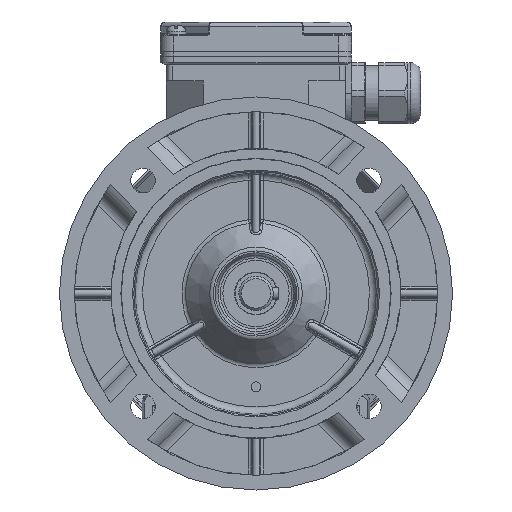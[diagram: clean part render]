
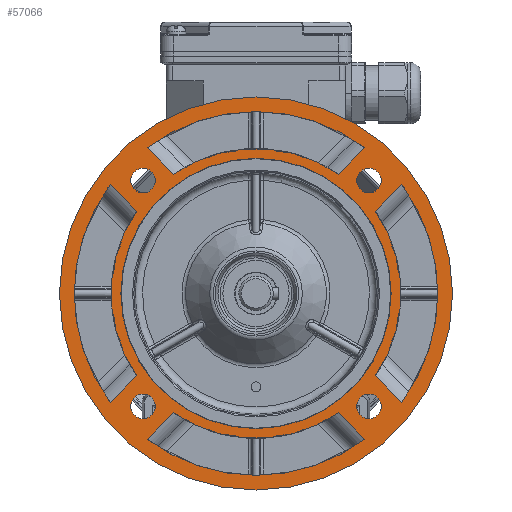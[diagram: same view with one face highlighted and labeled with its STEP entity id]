
A CAD part, front view. The second image highlights one B-rep face of the part: STEP entity #57066.
In plain terms, the highlighted planar face has unit normal (0, -1, 0).
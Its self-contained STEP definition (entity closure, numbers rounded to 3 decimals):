
#2186=LINE('',#87283,#4747);
#2187=LINE('',#87297,#4748);
#2188=LINE('',#87306,#4749);
#2189=LINE('',#87325,#4750);
#2190=LINE('',#87337,#4751);
#2191=LINE('',#87351,#4752);
#2192=LINE('',#87377,#4753);
#2193=LINE('',#87386,#4754);
#4747=VECTOR('',#69021,1000.);
#4748=VECTOR('',#69028,1000.);
#4749=VECTOR('',#69035,1000.);
#4750=VECTOR('',#69042,1000.);
#4751=VECTOR('',#69053,1000.);
#4752=VECTOR('',#69060,1000.);
#4753=VECTOR('',#69071,1000.);
#4754=VECTOR('',#69078,1000.);
#16398=ORIENTED_EDGE('',*,*,#24552,.F.);
#16399=ORIENTED_EDGE('',*,*,#24553,.F.);
#16400=ORIENTED_EDGE('',*,*,#24554,.F.);
#16401=ORIENTED_EDGE('',*,*,#24555,.F.);
#16402=ORIENTED_EDGE('',*,*,#24444,.F.);
#16403=ORIENTED_EDGE('',*,*,#24442,.F.);
#16404=ORIENTED_EDGE('',*,*,#24441,.T.);
#16405=ORIENTED_EDGE('',*,*,#24438,.T.);
#16406=ORIENTED_EDGE('',*,*,#24436,.F.);
#16407=ORIENTED_EDGE('',*,*,#24434,.T.);
#16408=ORIENTED_EDGE('',*,*,#24432,.T.);
#16409=ORIENTED_EDGE('',*,*,#24430,.F.);
#16410=ORIENTED_EDGE('',*,*,#24428,.F.);
#16411=ORIENTED_EDGE('',*,*,#24427,.F.);
#16412=ORIENTED_EDGE('',*,*,#24426,.T.);
#16413=ORIENTED_EDGE('',*,*,#24423,.T.);
#16414=ORIENTED_EDGE('',*,*,#24421,.F.);
#16415=ORIENTED_EDGE('',*,*,#24419,.F.);
#16416=ORIENTED_EDGE('',*,*,#24418,.T.);
#16417=ORIENTED_EDGE('',*,*,#24415,.T.);
#16418=ORIENTED_EDGE('',*,*,#24414,.F.);
#16419=ORIENTED_EDGE('',*,*,#24551,.T.);
#24414=EDGE_CURVE('',#29131,#29130,#2186,.T.);
#24415=EDGE_CURVE('',#29132,#29130,#31704,.T.);
#24418=EDGE_CURVE('',#29133,#29132,#2187,.T.);
#24419=EDGE_CURVE('',#29133,#29131,#31705,.T.);
#24421=EDGE_CURVE('',#29134,#29135,#2188,.T.);
#24423=EDGE_CURVE('',#29136,#29135,#31706,.T.);
#24426=EDGE_CURVE('',#29137,#29136,#2189,.T.);
#24427=EDGE_CURVE('',#29137,#29134,#31707,.T.);
#24428=EDGE_CURVE('',#29138,#29138,#31708,.T.);
#24430=EDGE_CURVE('',#29139,#29140,#2190,.T.);
#24432=EDGE_CURVE('',#29141,#29140,#31709,.T.);
#24434=EDGE_CURVE('',#29142,#29141,#2191,.T.);
#24436=EDGE_CURVE('',#29142,#29139,#31710,.T.);
#24438=EDGE_CURVE('',#29144,#29143,#31711,.T.);
#24441=EDGE_CURVE('',#29145,#29144,#2192,.T.);
#24442=EDGE_CURVE('',#29145,#29146,#31712,.T.);
#24444=EDGE_CURVE('',#29146,#29143,#2193,.T.);
#24551=EDGE_CURVE('',#29225,#29225,#31737,.T.);
#24552=EDGE_CURVE('',#29226,#29226,#31738,.T.);
#24553=EDGE_CURVE('',#29227,#29227,#31739,.T.);
#24554=EDGE_CURVE('',#29228,#29228,#31740,.T.);
#24555=EDGE_CURVE('',#29229,#29229,#31741,.T.);
#29130=VERTEX_POINT('',#87277);
#29131=VERTEX_POINT('',#87282);
#29132=VERTEX_POINT('',#87286);
#29133=VERTEX_POINT('',#87296);
#29134=VERTEX_POINT('',#87305);
#29135=VERTEX_POINT('',#87307);
#29136=VERTEX_POINT('',#87314);
#29137=VERTEX_POINT('',#87324);
#29138=VERTEX_POINT('',#87330);
#29139=VERTEX_POINT('',#87336);
#29140=VERTEX_POINT('',#87338);
#29141=VERTEX_POINT('',#87345);
#29142=VERTEX_POINT('',#87352);
#29143=VERTEX_POINT('',#87364);
#29144=VERTEX_POINT('',#87366);
#29145=VERTEX_POINT('',#87376);
#29146=VERTEX_POINT('',#87380);
#29225=VERTEX_POINT('',#88097);
#29226=VERTEX_POINT('',#88100);
#29227=VERTEX_POINT('',#88102);
#29228=VERTEX_POINT('',#88104);
#29229=VERTEX_POINT('',#88106);
#31704=CIRCLE('',#60530,59.);
#31705=CIRCLE('',#60533,74.);
#31706=CIRCLE('',#60536,59.);
#31707=CIRCLE('',#60539,74.);
#31708=CIRCLE('',#60541,55.);
#31709=CIRCLE('',#60544,59.);
#31710=CIRCLE('',#60547,74.);
#31711=CIRCLE('',#60549,59.);
#31712=CIRCLE('',#60552,74.);
#31737=CIRCLE('',#60613,80.);
#31738=CIRCLE('',#60615,5.);
#31739=CIRCLE('',#60616,5.);
#31740=CIRCLE('',#60617,5.);
#31741=CIRCLE('',#60618,5.);
#34141=EDGE_LOOP('',(#16398));
#34142=EDGE_LOOP('',(#16399));
#34143=EDGE_LOOP('',(#16400));
#34144=EDGE_LOOP('',(#16401));
#34145=EDGE_LOOP('',(#16402,#16403,#16404,#16405));
#34146=EDGE_LOOP('',(#16406,#16407,#16408,#16409));
#34147=EDGE_LOOP('',(#16410));
#34148=EDGE_LOOP('',(#16411,#16412,#16413,#16414));
#34149=EDGE_LOOP('',(#16415,#16416,#16417,#16418));
#34150=EDGE_LOOP('',(#16419));
#36936=FACE_BOUND('',#34141,.T.);
#36937=FACE_BOUND('',#34142,.T.);
#36938=FACE_BOUND('',#34143,.T.);
#36939=FACE_BOUND('',#34144,.T.);
#36940=FACE_BOUND('',#34145,.T.);
#36941=FACE_BOUND('',#34146,.T.);
#36942=FACE_BOUND('',#34147,.T.);
#36943=FACE_BOUND('',#34148,.T.);
#36944=FACE_BOUND('',#34149,.T.);
#36945=FACE_BOUND('',#34150,.T.);
#38512=PLANE('',#60614);
#57066=ADVANCED_FACE('',(#36936,#36937,#36938,#36939,#36940,#36941,#36942,
#36943,#36944,#36945),#38512,.F.);
#60530=AXIS2_PLACEMENT_3D('',#87285,#69024,#69025);
#60533=AXIS2_PLACEMENT_3D('',#87299,#69031,#69032);
#60536=AXIS2_PLACEMENT_3D('',#87313,#69038,#69039);
#60539=AXIS2_PLACEMENT_3D('',#87327,#69045,#69046);
#60541=AXIS2_PLACEMENT_3D('',#87329,#69049,#69050);
#60544=AXIS2_PLACEMENT_3D('',#87344,#69056,#69057);
#60547=AXIS2_PLACEMENT_3D('',#87358,#69063,#69064);
#60549=AXIS2_PLACEMENT_3D('',#87365,#69067,#69068);
#60552=AXIS2_PLACEMENT_3D('',#87379,#69074,#69075);
#60613=AXIS2_PLACEMENT_3D('',#88096,#69213,#69214);
#60614=AXIS2_PLACEMENT_3D('',#88098,#69215,#69216);
#60615=AXIS2_PLACEMENT_3D('',#88099,#69217,#69218);
#60616=AXIS2_PLACEMENT_3D('',#88101,#69219,#69220);
#60617=AXIS2_PLACEMENT_3D('',#88103,#69221,#69222);
#60618=AXIS2_PLACEMENT_3D('',#88105,#69223,#69224);
#69021=DIRECTION('',(-0.707,0.,-0.707));
#69024=DIRECTION('',(0.,-1.,0.));
#69025=DIRECTION('',(0.,0.,-1.));
#69028=DIRECTION('',(-0.707,0.,0.707));
#69031=DIRECTION('',(0.,-1.,0.));
#69032=DIRECTION('',(0.,0.,-1.));
#69035=DIRECTION('',(-0.707,0.,0.707));
#69038=DIRECTION('',(0.,-1.,0.));
#69039=DIRECTION('',(0.,0.,-1.));
#69042=DIRECTION('',(0.707,0.,0.707));
#69045=DIRECTION('',(0.,-1.,0.));
#69046=DIRECTION('',(0.,0.,-1.));
#69049=DIRECTION('',(0.,-1.,0.));
#69050=DIRECTION('',(0.,0.,-1.));
#69053=DIRECTION('',(0.707,0.,0.707));
#69056=DIRECTION('',(0.,-1.,0.));
#69057=DIRECTION('',(0.,0.,-1.));
#69060=DIRECTION('',(0.707,0.,-0.707));
#69063=DIRECTION('',(0.,-1.,0.));
#69064=DIRECTION('',(0.,0.,-1.));
#69067=DIRECTION('',(0.,-1.,0.));
#69068=DIRECTION('',(0.,0.,-1.));
#69071=DIRECTION('',(-0.707,0.,-0.707));
#69074=DIRECTION('',(0.,-1.,0.));
#69075=DIRECTION('',(0.,0.,-1.));
#69078=DIRECTION('',(0.707,0.,-0.707));
#69213=DIRECTION('',(0.,-1.,0.));
#69214=DIRECTION('',(0.,0.,-1.));
#69215=DIRECTION('',(0.,1.,0.));
#69216=DIRECTION('',(0.,0.,1.));
#69217=DIRECTION('',(0.,-1.,0.));
#69218=DIRECTION('',(1.,0.,0.));
#69219=DIRECTION('',(0.,-1.,0.));
#69220=DIRECTION('',(1.,0.,0.));
#69221=DIRECTION('',(0.,-1.,0.));
#69222=DIRECTION('',(1.,0.,0.));
#69223=DIRECTION('',(0.,-1.,0.));
#69224=DIRECTION('',(1.,0.,0.));
#87277=CARTESIAN_POINT('',(48.549,-90.,33.526));
#87282=CARTESIAN_POINT('',(59.295,-90.,44.273));
#87283=CARTESIAN_POINT('',(59.837,-90.,44.815));
#87285=CARTESIAN_POINT('',(0.,-90.,0.));
#87286=CARTESIAN_POINT('',(48.549,-90.,-33.526));
#87296=CARTESIAN_POINT('',(59.295,-90.,-44.273));
#87297=CARTESIAN_POINT('',(59.837,-90.,-44.815));
#87299=CARTESIAN_POINT('',(0.,-90.,0.));
#87305=CARTESIAN_POINT('',(44.273,-90.,-59.295));
#87306=CARTESIAN_POINT('',(44.815,-90.,-59.837));
#87307=CARTESIAN_POINT('',(33.526,-90.,-48.549));
#87313=CARTESIAN_POINT('',(0.,-90.,0.));
#87314=CARTESIAN_POINT('',(-33.526,-90.,-48.549));
#87324=CARTESIAN_POINT('',(-44.273,-90.,-59.295));
#87325=CARTESIAN_POINT('',(-44.815,-90.,-59.837));
#87327=CARTESIAN_POINT('',(0.,-90.,0.));
#87329=CARTESIAN_POINT('',(0.,-90.,0.));
#87330=CARTESIAN_POINT('',(0.,-90.,-55.));
#87336=CARTESIAN_POINT('',(-59.295,-90.,-44.273));
#87337=CARTESIAN_POINT('',(-59.837,-90.,-44.815));
#87338=CARTESIAN_POINT('',(-48.549,-90.,-33.526));
#87344=CARTESIAN_POINT('',(0.,-90.,0.));
#87345=CARTESIAN_POINT('',(-48.549,-90.,33.526));
#87351=CARTESIAN_POINT('',(-59.837,-90.,44.815));
#87352=CARTESIAN_POINT('',(-59.295,-90.,44.273));
#87358=CARTESIAN_POINT('',(0.,-90.,0.));
#87364=CARTESIAN_POINT('',(-33.526,-90.,48.549));
#87365=CARTESIAN_POINT('',(0.,-90.,0.));
#87366=CARTESIAN_POINT('',(33.526,-90.,48.549));
#87376=CARTESIAN_POINT('',(44.273,-90.,59.295));
#87377=CARTESIAN_POINT('',(44.815,-90.,59.837));
#87379=CARTESIAN_POINT('',(0.,-90.,0.));
#87380=CARTESIAN_POINT('',(-44.273,-90.,59.295));
#87386=CARTESIAN_POINT('',(-44.815,-90.,59.837));
#88096=CARTESIAN_POINT('',(0.,-90.,0.));
#88097=CARTESIAN_POINT('',(0.,-90.,-80.));
#88098=CARTESIAN_POINT('',(0.,-90.,55.));
#88099=CARTESIAN_POINT('',(45.962,-90.,45.962));
#88100=CARTESIAN_POINT('',(50.962,-90.,45.962));
#88101=CARTESIAN_POINT('',(45.962,-90.,-45.962));
#88102=CARTESIAN_POINT('',(50.962,-90.,-45.962));
#88103=CARTESIAN_POINT('',(-45.962,-90.,-45.962));
#88104=CARTESIAN_POINT('',(-40.962,-90.,-45.962));
#88105=CARTESIAN_POINT('',(-45.962,-90.,45.962));
#88106=CARTESIAN_POINT('',(-40.962,-90.,45.962));
